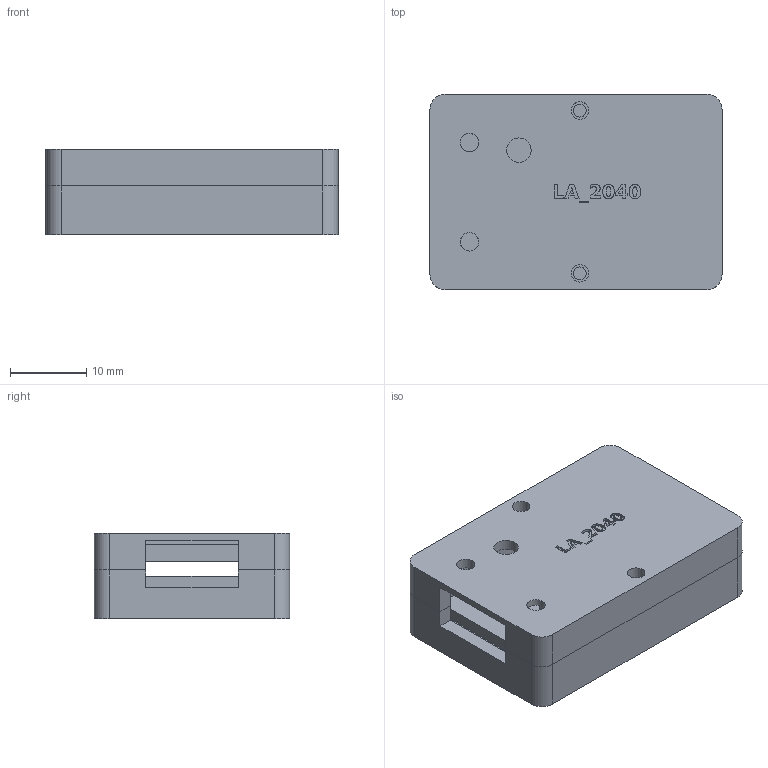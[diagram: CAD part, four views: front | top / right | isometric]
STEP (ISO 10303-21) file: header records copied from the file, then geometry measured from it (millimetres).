
FILE_DESCRIPTION(('Open CASCADE Model'),'2;1');
FILE_NAME('Open CASCADE Shape Model','2026-10-25T05:27:17',('Author'),( 'Open CASCADE'),'Open CASCADE STEP processor 7.8','Open CASCADE 7.8' ,'Unknown');
FILE_SCHEMA(('AUTOMOTIVE_DESIGN { 1 0 10303 214 1 1 1 1 }'));
Length unit declared in the file: millimetre
Products named in the file (4): LA2040_enclosure; base; lid; PCB_REFERENCE_NOT_FOR_PRINT
Assembly tree (3 placements, depth 2):
  LA2040_enclosure
    base
    lid
    PCB_REFERENCE_NOT_FOR_PRINT
Bounding box: 38.4 x 25.7 x 11.2 mm (x, y, z)
Volume: 6575.8 mm3; surface area: 7466.5 mm2
Topology: 3 solids, 3 shells, 280 faces, 765 edges, 510 vertices
Faces by surface type: plane 213, extrusion 44, cylinder 23
Full cylindrical faces by diameter (mm): 1.7 x2, 2.3 x2, 2.4 x2, 3.2 x1
Entity records: 19638 total; most frequent: CARTESIAN_POINT 4676, DIRECTION 2527, VECTOR 1935, LINE 1891, ORIENTED_EDGE 1530, PCURVE 1530, DEFINITIONAL_REPRESENTATION 1530, EDGE_CURVE 765
